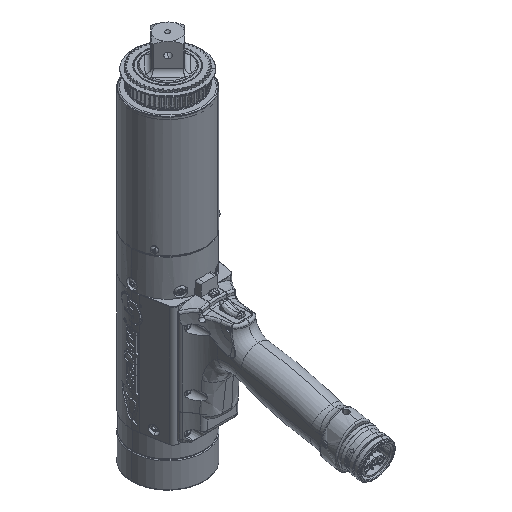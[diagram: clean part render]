
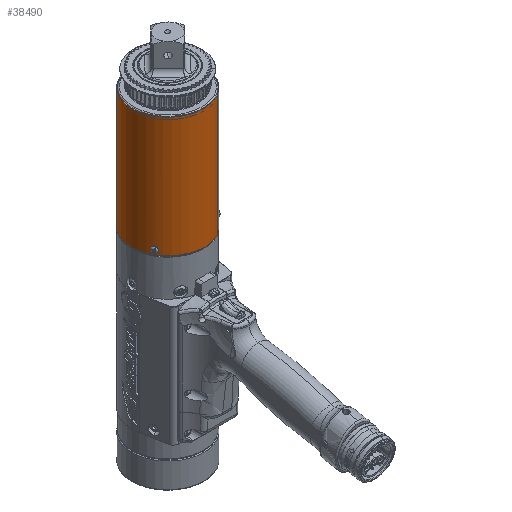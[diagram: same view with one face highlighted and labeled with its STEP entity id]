
A CAD part, isometric view. The second image highlights one B-rep face of the part: STEP entity #38490.
In plain terms, the highlighted cylindrical face has radius 38.735 mm (diameter 77.47 mm), a partial arc.
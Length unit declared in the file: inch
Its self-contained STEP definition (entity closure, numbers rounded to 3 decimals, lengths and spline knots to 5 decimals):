
#607 = CARTESIAN_POINT ( 'NONE',  ( -1.29414, -0.80675, 1.72931 ) ) ;
#1948 = CARTESIAN_POINT ( 'NONE',  ( -1.30304, -0.79229, 1.71795 ) ) ;
#6632 = DIRECTION ( 'NONE',  ( 0., 0., -1. ) ) ;
#7039 = CARTESIAN_POINT ( 'NONE',  ( -1.35773, -0.6944, 1.79824 ) ) ;
#8870 = B_SPLINE_CURVE_WITH_KNOTS ( 'NONE', 3,
 ( #118084, #67274, #76602, #77251, #57200, #25086, #87918, #35107, #46467, #97987, #128739, #65931, #127420, #55871, #7039, #108670, #47109, #66596, #88596, #37086, #78577, #47757, #45802, #15740, #129410, #96635, #106674, #107326, #35772, #119415 ),
 .UNSPECIFIED., .F., .F.,
 ( 4, 2, 2, 2, 2, 2, 2, 2, 2, 2, 2, 2, 2, 2, 4 ),
 ( 0., 0.00039, 0.00077, 0.00116, 0.00155, 0.00232, 0.0031, 0.00348, 0.00387, 0.00426, 0.00465, 0.00503, 0.00542, 0.00581, 0.00619 ),
 .UNSPECIFIED. ) ;
#9318 = CARTESIAN_POINT ( 'NONE',  ( -1.28132, -0.82695, 1.80828 ) ) ;
#10504 = VERTEX_POINT ( 'NONE', #95398 ) ;
#10651 = CARTESIAN_POINT ( 'NONE',  ( -1.28552, -0.82041, 1.74901 ) ) ;
#12886 = CARTESIAN_POINT ( 'NONE',  ( -0.7625, 1.32069, 1.55803 ) ) ;
#13549 = FACE_OUTER_BOUND ( 'NONE', #38083, .T. ) ;
#15740 = CARTESIAN_POINT ( 'NONE',  ( -1.33983, -0.72834, 1.85568 ) ) ;
#19364 = B_SPLINE_CURVE_WITH_KNOTS ( 'NONE', 3,
 ( #58814, #70877, #62151, #122947, #42037, #91564, #21318, #20664, #93505, #101575, #9318, #21959, #112304, #102247, #60816, #123625, #111607, #31973, #10651, #30648, #92222, #607, #81509, #121672, #1948, #82846, #42678, #41359 ),
 .UNSPECIFIED., .F., .F.,
 ( 4, 2, 2, 2, 2, 2, 2, 2, 2, 2, 2, 2, 2, 4 ),
 ( 0.00619, 0.00697, 0.00774, 0.00813, 0.00852, 0.0089, 0.00929, 0.00968, 0.01007, 0.01045, 0.01084, 0.01123, 0.01161, 0.01239 ),
 .UNSPECIFIED. ) ;
#19935 = AXIS2_PLACEMENT_3D ( 'NONE', #55692, #85108, #95139 ) ;
#20560 = DIRECTION ( 'NONE',  ( 0., 0., 1. ) ) ;
#20664 = CARTESIAN_POINT ( 'NONE',  ( -1.28556, -0.82035, 1.82715 ) ) ;
#21318 = CARTESIAN_POINT ( 'NONE',  ( -1.2886, -0.81556, 1.83563 ) ) ;
#21959 = CARTESIAN_POINT ( 'NONE',  ( -1.28024, -0.82862, 1.79831 ) ) ;
#24781 = AXIS2_PLACEMENT_3D ( 'NONE', #68811, #6632, #39287 ) ;
#25086 = CARTESIAN_POINT ( 'NONE',  ( -1.33765, -0.73235, 1.71793 ) ) ;
#26721 = ORIENTED_EDGE ( 'NONE', *, *, #85836, .F. ) ;
#30648 = CARTESIAN_POINT ( 'NONE',  ( -1.28855, -0.81564, 1.74054 ) ) ;
#31973 = CARTESIAN_POINT ( 'NONE',  ( -1.28423, -0.82243, 1.75349 ) ) ;
#35107 = CARTESIAN_POINT ( 'NONE',  ( -1.34383, -0.72095, 1.72598 ) ) ;
#35772 = CARTESIAN_POINT ( 'NONE',  ( -1.32325, -0.75807, 1.86602 ) ) ;
#37086 = CARTESIAN_POINT ( 'NONE',  ( -1.35062, -0.70814, 1.83557 ) ) ;
#38083 = EDGE_LOOP ( 'NONE', ( #92622, #26721, #77141, #126250 ) ) ;
#38490 = ADVANCED_FACE ( 'NONE', ( #13549, #95800 ), #75732, .T. ) ;
#38877 = EDGE_LOOP ( 'NONE', ( #61413, #54383 ) ) ;
#39287 = DIRECTION ( 'NONE',  ( -0.5, 0.866, 0. ) ) ;
#40929 = VERTEX_POINT ( 'NONE', #47790 ) ;
#41359 = CARTESIAN_POINT ( 'NONE',  ( -1.32069, -0.7625, 1.71003 ) ) ;
#42037 = CARTESIAN_POINT ( 'NONE',  ( -1.2961, -0.80362, 1.85042 ) ) ;
#42364 = AXIS2_PLACEMENT_3D ( 'NONE', #67089, #126557, #128559 ) ;
#42678 = CARTESIAN_POINT ( 'NONE',  ( -1.31553, -0.77143, 1.71003 ) ) ;
#44790 = CARTESIAN_POINT ( 'NONE',  ( 0.7625, -1.32069, 1.55803 ) ) ;
#45802 = CARTESIAN_POINT ( 'NONE',  ( -1.34385, -0.72091, 1.85003 ) ) ;
#46467 = CARTESIAN_POINT ( 'NONE',  ( -1.34572, -0.71741, 1.72928 ) ) ;
#47109 = CARTESIAN_POINT ( 'NONE',  ( -1.35615, -0.69749, 1.81311 ) ) ;
#47757 = CARTESIAN_POINT ( 'NONE',  ( -1.34571, -0.71743, 1.84679 ) ) ;
#47790 = CARTESIAN_POINT ( 'NONE',  ( 0.7625, -1.32069, 6.67302 ) ) ;
#53792 = EDGE_CURVE ( 'NONE', #61806, #78421, #8870, .T. ) ;
#54383 = ORIENTED_EDGE ( 'NONE', *, *, #58150, .T. ) ;
#55170 = CIRCLE ( 'NONE', #42364, 1.525 ) ;
#55525 = LINE ( 'NONE', #44790, #69879 ) ;
#55692 = CARTESIAN_POINT ( 'NONE',  ( 0., 0., 1.55803 ) ) ;
#55871 = CARTESIAN_POINT ( 'NONE',  ( -1.35796, -0.69395, 1.79307 ) ) ;
#57200 = CARTESIAN_POINT ( 'NONE',  ( -1.33309, -0.74062, 1.71401 ) ) ;
#58150 = EDGE_CURVE ( 'NONE', #78421, #61806, #19364, .T. ) ;
#58814 = CARTESIAN_POINT ( 'NONE',  ( -1.3207, -0.76248, 1.86602 ) ) ;
#60816 = CARTESIAN_POINT ( 'NONE',  ( -1.28023, -0.82863, 1.77787 ) ) ;
#61413 = ORIENTED_EDGE ( 'NONE', *, *, #53792, .T. ) ;
#61806 = VERTEX_POINT ( 'NONE', #89220 ) ;
#62151 = CARTESIAN_POINT ( 'NONE',  ( -1.31039, -0.78013, 1.86399 ) ) ;
#65931 = CARTESIAN_POINT ( 'NONE',  ( -1.35703, -0.69579, 1.76754 ) ) ;
#66596 = CARTESIAN_POINT ( 'NONE',  ( -1.35436, -0.70096, 1.82255 ) ) ;
#67089 = CARTESIAN_POINT ( 'NONE',  ( 0., 0., 1.55803 ) ) ;
#67274 = CARTESIAN_POINT ( 'NONE',  ( -1.32327, -0.75804, 1.71003 ) ) ;
#68811 = CARTESIAN_POINT ( 'NONE',  ( 0., 0., 6.67302 ) ) ;
#69879 = VECTOR ( 'NONE', #123910, 39.37008 ) ;
#70877 = CARTESIAN_POINT ( 'NONE',  ( -1.31561, -0.77129, 1.86603 ) ) ;
#71431 = LINE ( 'NONE', #82744, #77603 ) ;
#73883 = CIRCLE ( 'NONE', #24781, 1.525 ) ;
#75732 = CYLINDRICAL_SURFACE ( 'NONE', #19935, 1.525 ) ;
#75908 = EDGE_CURVE ( 'NONE', #84195, #40929, #55525, .T. ) ;
#76602 = CARTESIAN_POINT ( 'NONE',  ( -1.32578, -0.75363, 1.71053 ) ) ;
#77141 = ORIENTED_EDGE ( 'NONE', *, *, #75908, .T. ) ;
#77251 = CARTESIAN_POINT ( 'NONE',  ( -1.33068, -0.74495, 1.71251 ) ) ;
#77603 = VECTOR ( 'NONE', #20560, 39.37008 ) ;
#78421 = VERTEX_POINT ( 'NONE', #106825 ) ;
#78577 = CARTESIAN_POINT ( 'NONE',  ( -1.34912, -0.711, 1.83951 ) ) ;
#81509 = CARTESIAN_POINT ( 'NONE',  ( -1.29621, -0.80342, 1.72608 ) ) ;
#82744 = CARTESIAN_POINT ( 'NONE',  ( -0.7625, 1.32069, 1.55803 ) ) ;
#82846 = CARTESIAN_POINT ( 'NONE',  ( -1.31032, -0.78024, 1.7121 ) ) ;
#83707 = EDGE_CURVE ( 'NONE', #40929, #10504, #73883, .T. ) ;
#84195 = VERTEX_POINT ( 'NONE', #115363 ) ;
#85108 = DIRECTION ( 'NONE',  ( 0., 0., 1. ) ) ;
#85836 = EDGE_CURVE ( 'NONE', #84195, #108594, #55170, .T. ) ;
#87918 = CARTESIAN_POINT ( 'NONE',  ( -1.3398, -0.72842, 1.72032 ) ) ;
#88596 = CARTESIAN_POINT ( 'NONE',  ( -1.35323, -0.70313, 1.82712 ) ) ;
#89220 = CARTESIAN_POINT ( 'NONE',  ( -1.32069, -0.7625, 1.71003 ) ) ;
#91564 = CARTESIAN_POINT ( 'NONE',  ( -1.29036, -0.81277, 1.83964 ) ) ;
#92222 = CARTESIAN_POINT ( 'NONE',  ( -1.29031, -0.81285, 1.73652 ) ) ;
#92622 = ORIENTED_EDGE ( 'NONE', *, *, #114169, .F. ) ;
#93505 = CARTESIAN_POINT ( 'NONE',  ( -1.28426, -0.82238, 1.82268 ) ) ;
#95139 = DIRECTION ( 'NONE',  ( 0.5, -0.866, 0. ) ) ;
#95398 = CARTESIAN_POINT ( 'NONE',  ( -0.7625, 1.32069, 6.67302 ) ) ;
#95800 = FACE_BOUND ( 'NONE', #38877, .T. ) ;
#96635 = CARTESIAN_POINT ( 'NONE',  ( -1.33309, -0.74062, 1.86204 ) ) ;
#97987 = CARTESIAN_POINT ( 'NONE',  ( -1.35078, -0.70787, 1.74007 ) ) ;
#101575 = CARTESIAN_POINT ( 'NONE',  ( -1.28214, -0.82568, 1.81324 ) ) ;
#102247 = CARTESIAN_POINT ( 'NONE',  ( -1.27996, -0.82906, 1.78296 ) ) ;
#106674 = CARTESIAN_POINT ( 'NONE',  ( -1.33072, -0.74487, 1.86351 ) ) ;
#106825 = CARTESIAN_POINT ( 'NONE',  ( -1.3207, -0.76248, 1.86602 ) ) ;
#107326 = CARTESIAN_POINT ( 'NONE',  ( -1.32581, -0.75358, 1.86551 ) ) ;
#108594 = VERTEX_POINT ( 'NONE', #12886 ) ;
#108670 = CARTESIAN_POINT ( 'NONE',  ( -1.35682, -0.69617, 1.80824 ) ) ;
#111607 = CARTESIAN_POINT ( 'NONE',  ( -1.28211, -0.82572, 1.76295 ) ) ;
#112304 = CARTESIAN_POINT ( 'NONE',  ( -1.27996, -0.82905, 1.79325 ) ) ;
#114169 = EDGE_CURVE ( 'NONE', #108594, #10504, #71431, .T. ) ;
#115363 = CARTESIAN_POINT ( 'NONE',  ( 0.7625, -1.32069, 1.55803 ) ) ;
#118084 = CARTESIAN_POINT ( 'NONE',  ( -1.32069, -0.7625, 1.71003 ) ) ;
#119415 = CARTESIAN_POINT ( 'NONE',  ( -1.3207, -0.76248, 1.86602 ) ) ;
#121672 = CARTESIAN_POINT ( 'NONE',  ( -1.30067, -0.79617, 1.72038 ) ) ;
#122947 = CARTESIAN_POINT ( 'NONE',  ( -1.30068, -0.79621, 1.85622 ) ) ;
#123625 = CARTESIAN_POINT ( 'NONE',  ( -1.2813, -0.82698, 1.7679 ) ) ;
#123910 = DIRECTION ( 'NONE',  ( 0., 0., 1. ) ) ;
#126250 = ORIENTED_EDGE ( 'NONE', *, *, #83707, .T. ) ;
#126557 = DIRECTION ( 'NONE',  ( 0., 0., -1. ) ) ;
#127420 = CARTESIAN_POINT ( 'NONE',  ( -1.35796, -0.69396, 1.77781 ) ) ;
#128559 = DIRECTION ( 'NONE',  ( -0.5, 0.866, 0. ) ) ;
#128739 = CARTESIAN_POINT ( 'NONE',  ( -1.35346, -0.70271, 1.74877 ) ) ;
#129410 = CARTESIAN_POINT ( 'NONE',  ( -1.33765, -0.73235, 1.85812 ) ) ;
